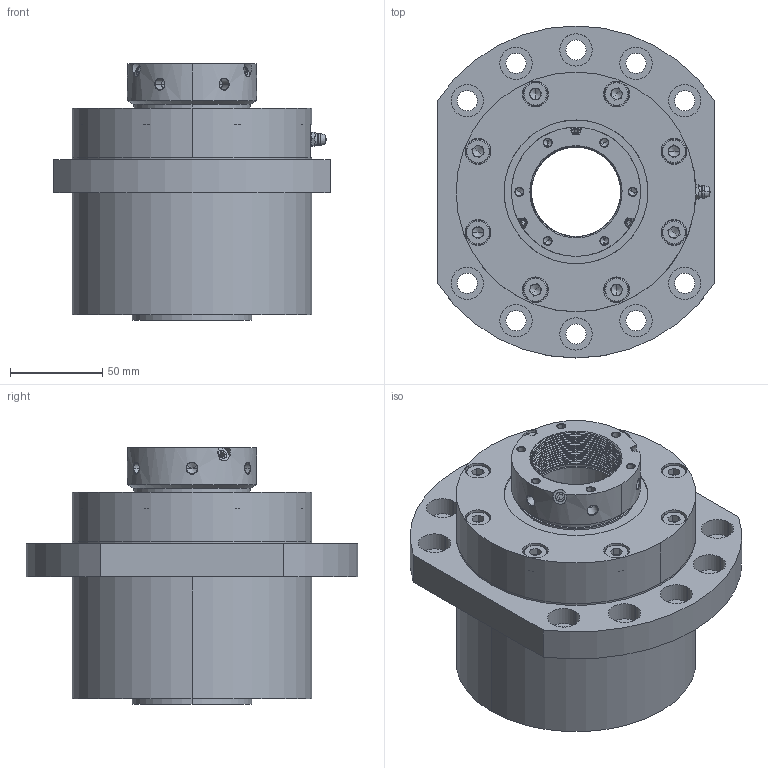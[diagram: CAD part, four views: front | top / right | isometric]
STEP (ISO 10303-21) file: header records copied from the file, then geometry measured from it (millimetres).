
FILE_DESCRIPTION (( 'STEP AP214' ), '1' );
FILE_NAME ('SWBK-50-G-DFD.STEP', '2022-03-29T06:59:51', ( '' ), ( '' ), 'SwSTEP 2.0', 'SolidWorks 2021', '' );
FILE_SCHEMA (( 'AUTOMOTIVE_DESIGN' ));
Length unit declared in the file: millimetre
Products named in the file (10): COLLAR2; GPA6A; SWBK-50-G-DFD; 50 TAC 100C; SWBK50DFD BODY; COLLAR; socket head cap screw_ks_KS 1003 - M8 x 30 x 30-N; SWBK50G COVER''; OIL SEAL; HLRN50
Assembly tree (19 placements, depth 2):
  SWBK-50-G-DFD
    SWBK50DFD BODY
    50 TAC 100C  x3
    SWBK50G COVER''
    OIL SEAL  x2
    COLLAR
    COLLAR2
    HLRN50
    GPA6A
    socket head cap screw_ks_KS 1003 - M8 x 30 x 30-N  x8
Bounding box: 150 x 180 x 139 mm (x, y, z)
Volume: 1370578.6 mm3; surface area: 341950.1 mm2
Topology: 61 solids, 61 shells, 1028 faces, 2555 edges, 1577 vertices
Faces by surface type: cylinder 338, plane 255, cone 144, sphere 138, torus 90, bspline 63
Entity records: 30095 total; most frequent: CARTESIAN_POINT 13584, ORIENTED_EDGE 2838, DIRECTION 2783, EDGE_CURVE 1419, AXIS2_PLACEMENT_3D 1173, VERTEX_POINT 914, EDGE_LOOP 727, ADVANCED_FACE 611
